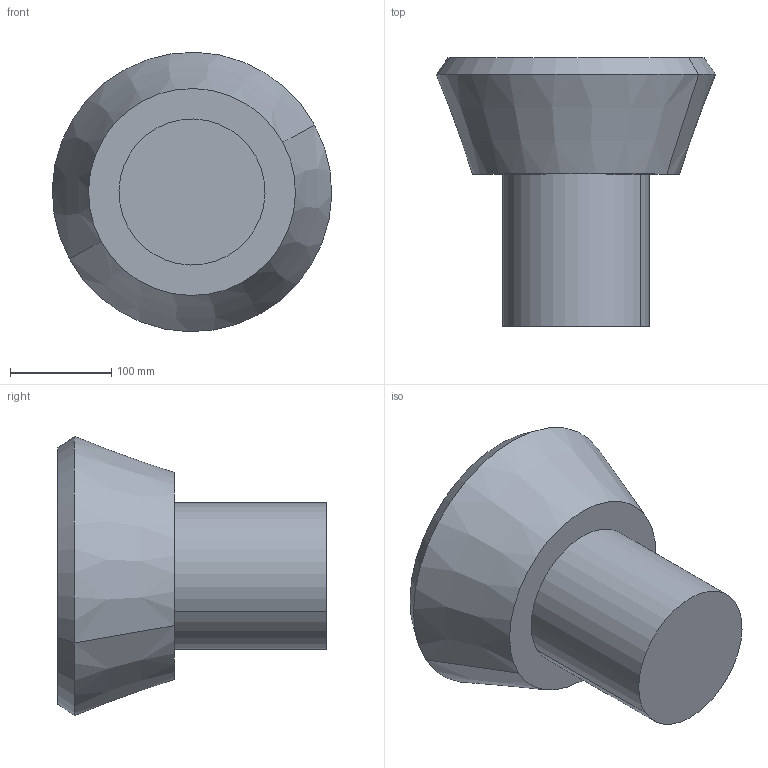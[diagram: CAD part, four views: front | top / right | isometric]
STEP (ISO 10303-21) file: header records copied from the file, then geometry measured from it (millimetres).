
FILE_DESCRIPTION(('CATIA V5 STEP Exchange'),'2;1');
FILE_NAME('C:\_Andres\UNIVERSIDAD\IQS\ASIGNATURAS\DAO\EXF\EXF-15161c\1original\Hoque_Tumanguil_Ej09-optimiza_v12.stp','2016-03-04T21:55:28+00:00',('none'),('none'),'CATIA Version 5 Release 20 SP 1 (IN-10)','CATIA V5 STEP AP203','none');
FILE_SCHEMA(('CONFIG_CONTROL_DESIGN'));
Length unit declared in the file: millimetre
Products named in the file (1): Hoque_Tumanguil_Ej09-optimiza_v12
Bounding box: 275.45 x 264.64 x 275.45 mm (x, y, z)
Volume: 7791087.2 mm3; surface area: 250403.1 mm2
Topology: 1 solids, 2 shells, 13 faces, 22 edges, 14 vertices
Faces by surface type: plane 5, cylinder 4, cone 4
Entity records: 324 total; most frequent: CARTESIAN_POINT 47, ORIENTED_EDGE 44, DIRECTION 42, AXIS2_PLACEMENT_3D 25, EDGE_CURVE 22, CIRCLE 14, EDGE_LOOP 14, VERTEX_POINT 14
